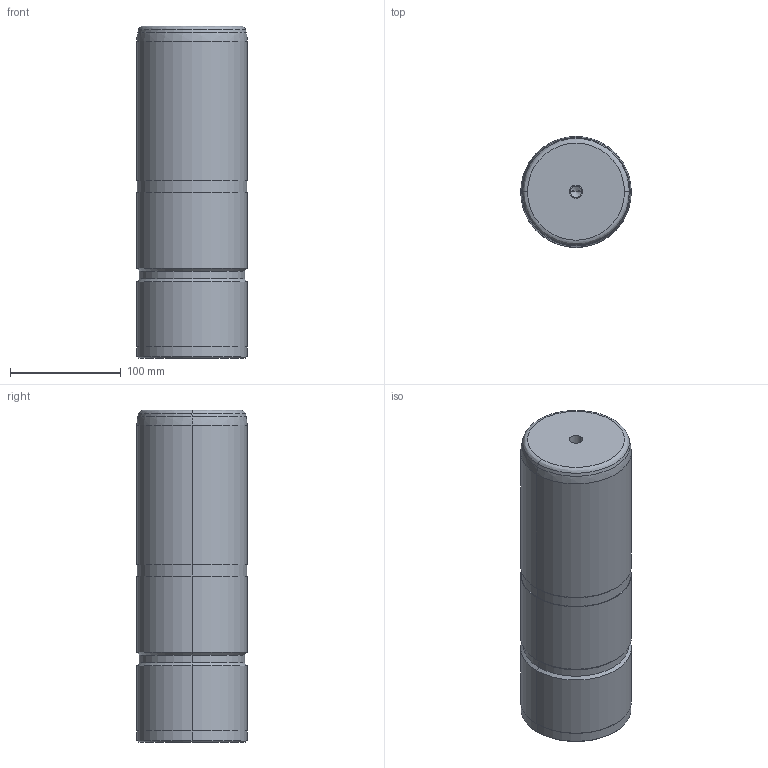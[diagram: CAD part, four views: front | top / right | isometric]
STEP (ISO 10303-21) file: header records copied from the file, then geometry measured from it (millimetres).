
FILE_DESCRIPTION((''),'2;1');
FILE_NAME('','2010-08-31T09:45:51+09:00',('misumi'),(''),'M/STEP i/f 1R2-14','CADmeister v5.1','');
FILE_SCHEMA(('AUTOMOTIVE_DESIGN'));
Length unit declared in the file: millimetre
Products named in the file (1): GPM100-300
Bounding box: 100 x 100 x 300 mm (x, y, z)
Volume: 2338058 mm3; surface area: 110517.5 mm2
Topology: 1 solids, 1 shells, 36 faces, 72 edges, 41 vertices
Faces by surface type: cylinder 16, cone 10, plane 6, revolution 4
Entity records: 1024 total; most frequent: DIRECTION 188, CARTESIAN_POINT 158, ORIENTED_EDGE 140, AXIS2_PLACEMENT_3D 79, EDGE_CURVE 70, CIRCLE 46, VERTEX_POINT 41, EDGE_LOOP 41
